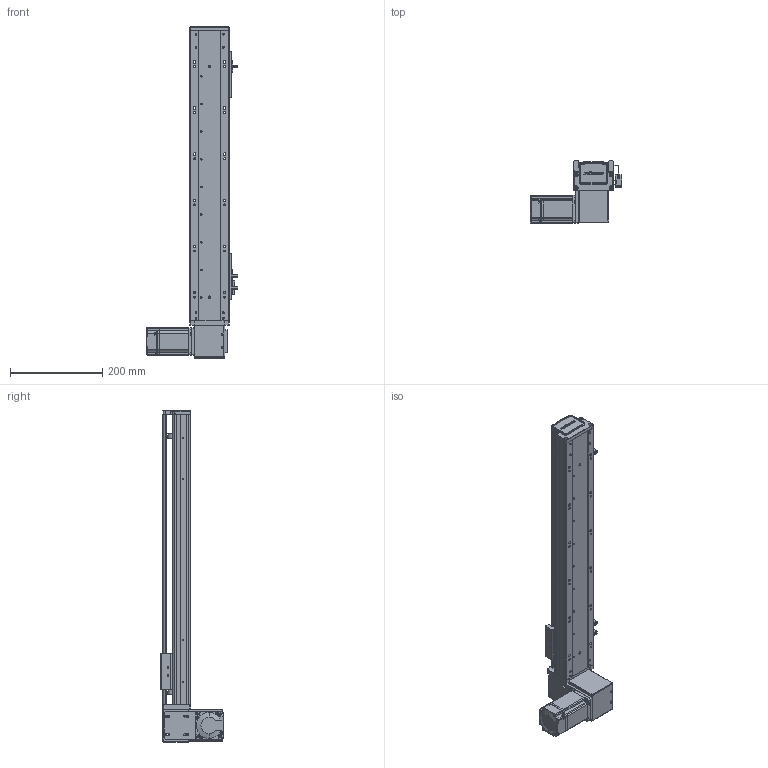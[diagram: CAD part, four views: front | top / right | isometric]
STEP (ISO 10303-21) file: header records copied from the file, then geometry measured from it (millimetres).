
FILE_DESCRIPTION (( 'STEP AP203' ), '1' );
FILE_NAME ('RY80-T-300-DL.SLDASM_450.step', '2021-03-01T01:37:45', ( '盈信电脑' ), ( '东莞市道滘镇水果街19号' ), 'SwSTEP 2.0', 'SolidWorks 2012', '' );
FILE_SCHEMA (( 'CONFIG_CONTROL_DESIGN' ));
Products named in the file (19): RY80-T-300-DL.SLDASM_450; RY100-T粣創揤踡裔; RY80-T-M4蹟翐3; RY80-T-上下折同步轮盖板; RY80-T肮祭謫狟殏俋欶; 1; 滅袉蝶18-10; RY80-T翋肮祭謫裔啣; RY80-T萇儂假蚾啣; RY80-T-翋肮祭謫釱; RY80俋离覜茼え; RY80-T肮祭湍揤輸1; RY80-T肮祭湍揤輸2; 672嫖萇羲壽假蚾釱; 覜茼ん672; RY80-T-300-DL倰第奻裔啣_450; RY80-T綴裔啣; RY80-T肮祭謫臏賑輸; RY80-T-300-DL倰第菁釱_450
Assembly tree (24 placements, depth 2):
  RY80-T-300-DL.SLDASM_450
    RY80-T-300-DL倰第菁釱_450
    RY80-T肮祭謫臏賑輸
    RY80-T-300-DL倰第奻裔啣_450
    RY80-T綴裔啣
    672嫖萇羲壽假蚾釱  x2
    覜茼ん672  x3
    RY80俋离覜茼え
    RY80-T-翋肮祭謫釱
    RY80-T肮祭湍揤輸1
    RY80-T肮祭湍揤輸2
    RY80-T萇儂假蚾啣
    RY80-T翋肮祭謫裔啣  x2
    滅袉蝶18-10  x2
    1
    RY80-T肮祭謫狟殏俋欶
    RY80-T-M4蹟翐3  x2
    RY80-T-上下折同步轮盖板
    RY100-T粣創揤踡裔
Bounding box: 198.7 x 134.5 x 720 mm (x, y, z)
Volume: 1473060.3 mm3; surface area: 603323.4 mm2
Topology: 24 solids, 24 shells, 2440 faces, 6708 edges, 4353 vertices
Faces by surface type: plane 1333, cylinder 903, cone 148, bspline 56
Entity records: 76077 total; most frequent: CARTESIAN_POINT 18176, ORIENTED_EDGE 11860, DIRECTION 11190, EDGE_CURVE 5930, VERTEX_POINT 3894, AXIS2_PLACEMENT_3D 3740, LINE 3710, VECTOR 3710
